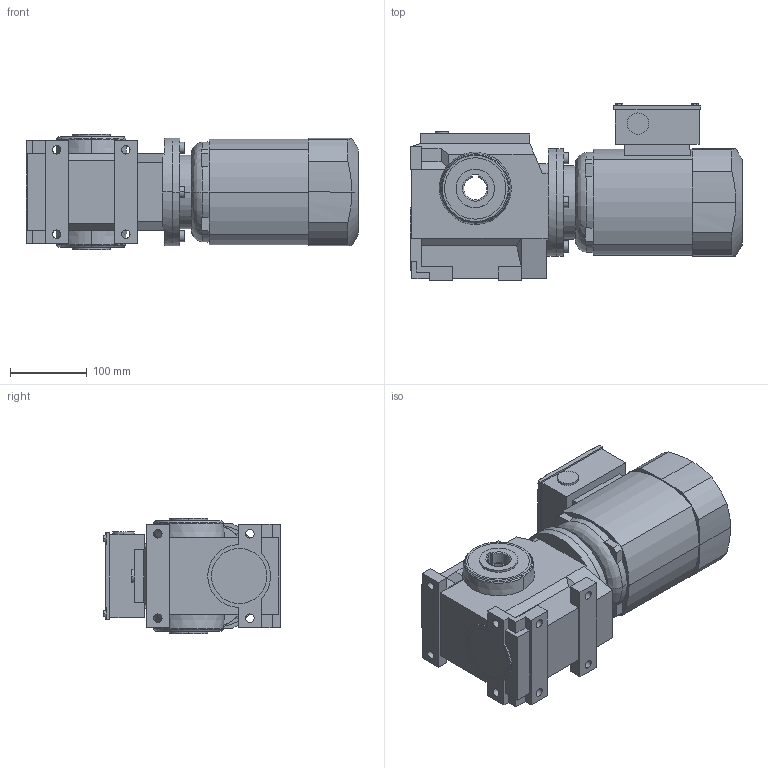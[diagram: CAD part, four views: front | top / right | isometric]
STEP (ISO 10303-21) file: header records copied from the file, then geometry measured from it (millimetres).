
FILE_DESCRIPTION(('STEP AP214'),'1');
FILE_NAME('STEP-File.stp','2018-01-01T00:00:00',(' '),('KEB'),' ','KEB-DRIVE',' ');
FILE_SCHEMA(('AUTOMOTIVE_DESIGN { 1 0 10303 214 1 1 1 1 }'));
Length unit declared in the file: millimetre
Products named in the file (10): s2a; wc_hw_30; wch_slno; cl2; dm80_kkn; kk08; PLUG_M25; ndm80; S22A DM80K4§CAD13
Assembly tree (9 placements, depth 2):
  S22A DM80K4§CAD13
    s2a
    wc_hw_30
    wch_slno
    wch_slno
    cl2
    dm80_kkn
    kk08
    PLUG_M25
    ndm80
Bounding box: 432.5 x 231 x 150 mm (x, y, z)
Volume: 7937052.1 mm3; surface area: 533519.5 mm2
Topology: 9 solids, 9 shells, 406 faces, 1157 edges, 870 vertices
Faces by surface type: plane 263, cylinder 85, cone 46, torus 10, revolution 2
Entity records: 15027 total; most frequent: CARTESIAN_POINT 4538, ORIENTED_EDGE 2314, DIRECTION 1717, EDGE_CURVE 1157, VERTEX_POINT 870, VECTOR 816, LINE 816, EDGE_LOOP 531
